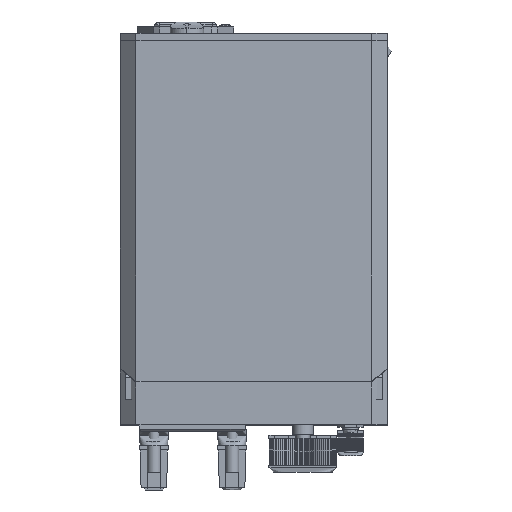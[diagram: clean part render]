
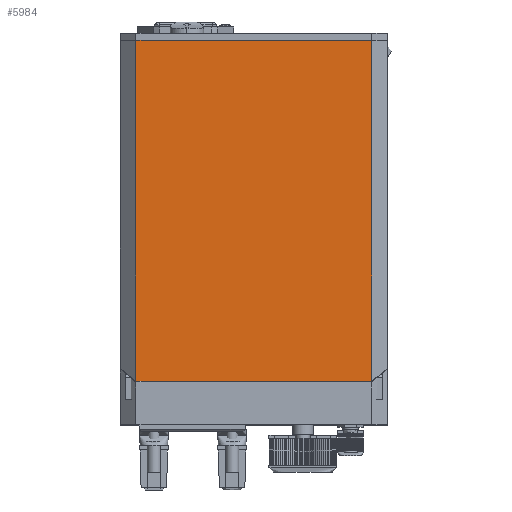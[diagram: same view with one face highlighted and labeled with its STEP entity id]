
A CAD part, top view. The second image highlights one B-rep face of the part: STEP entity #5984.
In plain terms, the highlighted free-form (B-spline) face has degree [2, 1] with [3, 2] control points.
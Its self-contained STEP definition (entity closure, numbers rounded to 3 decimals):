
#5984=ADVANCED_FACE('',(#11379),#73821,.T.);
#11379=FACE_OUTER_BOUND('',#16567,.T.);
#16567=EDGE_LOOP('',(#36645,#36646,#36647,#36648));
#36645=ORIENTED_EDGE('',*,*,#50705,.T.);
#36646=ORIENTED_EDGE('',*,*,#50679,.T.);
#36647=ORIENTED_EDGE('',*,*,#50707,.F.);
#36648=ORIENTED_EDGE('',*,*,#50699,.F.);
#50679=EDGE_CURVE('',#71179,#71187,#65170,.T.);
#50699=EDGE_CURVE('',#71193,#71194,#60792,.T.);
#50705=EDGE_CURVE('',#71193,#71179,#60798,.T.);
#50707=EDGE_CURVE('',#71194,#71187,#60800,.T.);
#60792=B_SPLINE_CURVE_WITH_KNOTS('',1,(#144373,#144374),.UNSPECIFIED.,.F.,
 .F.,(2,2),(673.913,779.913),.UNSPECIFIED.);
#60798=B_SPLINE_CURVE_WITH_KNOTS('',1,(#144413,#144414),.UNSPECIFIED.,.F.,
 .F.,(2,2),(19.587,172.823),.UNSPECIFIED.);
#60800=B_SPLINE_CURVE_WITH_KNOTS('',1,(#144417,#144418),.UNSPECIFIED.,.F.,
 .F.,(2,2),(19.587,172.823),.UNSPECIFIED.);
#65170=(
BOUNDED_CURVE()
B_SPLINE_CURVE(2,(#144296,#144297,#144298),.UNSPECIFIED.,.F.,.F.)
B_SPLINE_CURVE_WITH_KNOTS((3,3),(637.,743.),.UNSPECIFIED.)
CURVE()
GEOMETRIC_REPRESENTATION_ITEM()
RATIONAL_B_SPLINE_CURVE((1.,1.,1.))
REPRESENTATION_ITEM('')
);
#71179=VERTEX_POINT('',#142320);
#71187=VERTEX_POINT('',#142328);
#71193=VERTEX_POINT('',#142334);
#71194=VERTEX_POINT('',#142335);
#73821=(
BOUNDED_SURFACE()
B_SPLINE_SURFACE(2,1,((#137436,#137437),(#137438,#137439),(#137440,#137441)),
 .UNSPECIFIED.,.F.,.F.,.F.)
B_SPLINE_SURFACE_WITH_KNOTS((3,3),(2,2),(-743.,-637.),(0.,172.823),
 .UNSPECIFIED.)
GEOMETRIC_REPRESENTATION_ITEM()
RATIONAL_B_SPLINE_SURFACE(((1.,1.),(1.,1.),(1.,1.)))
REPRESENTATION_ITEM('')
SURFACE()
);
#137436=CARTESIAN_POINT('',(-53.,-7.739,36.553));
#137437=CARTESIAN_POINT('',(-53.,165.084,36.553));
#137438=CARTESIAN_POINT('',(0.,-7.739,36.553));
#137439=CARTESIAN_POINT('',(0.,165.084,36.553));
#137440=CARTESIAN_POINT('',(53.,-7.739,36.553));
#137441=CARTESIAN_POINT('',(53.,165.084,36.553));
#142320=CARTESIAN_POINT('',(53.,165.084,36.553));
#142328=CARTESIAN_POINT('',(-53.,165.084,36.553));
#142334=CARTESIAN_POINT('',(53.,11.848,36.553));
#142335=CARTESIAN_POINT('',(-53.,11.848,36.553));
#144296=CARTESIAN_POINT('',(53.,165.084,36.553));
#144297=CARTESIAN_POINT('',(0.,165.084,36.553));
#144298=CARTESIAN_POINT('',(-53.,165.084,36.553));
#144373=CARTESIAN_POINT('',(53.,11.848,36.553));
#144374=CARTESIAN_POINT('',(-53.,11.848,36.553));
#144413=CARTESIAN_POINT('',(53.,11.848,36.553));
#144414=CARTESIAN_POINT('',(53.,165.084,36.553));
#144417=CARTESIAN_POINT('',(-53.,11.848,36.553));
#144418=CARTESIAN_POINT('',(-53.,165.084,36.553));
